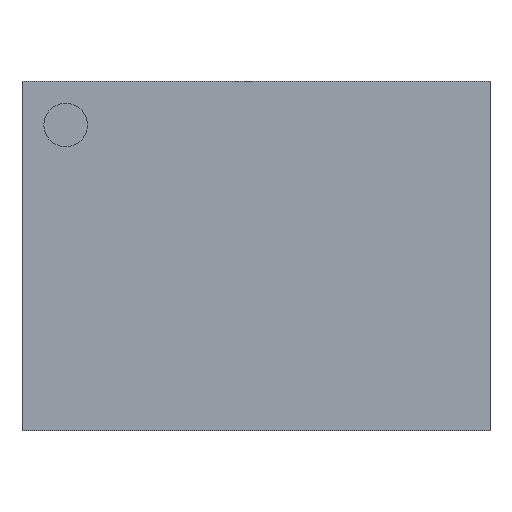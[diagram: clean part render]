
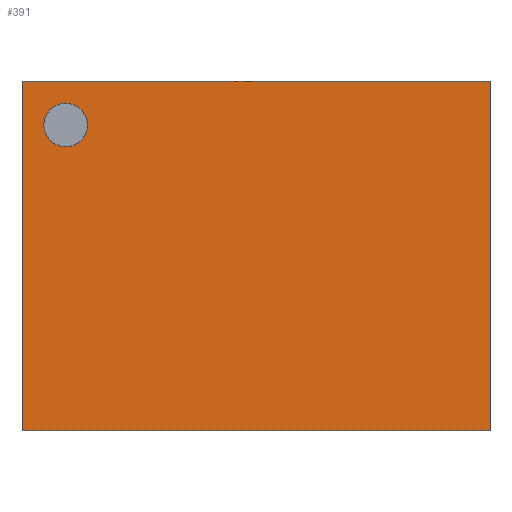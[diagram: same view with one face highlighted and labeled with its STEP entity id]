
A CAD part, top view. The second image highlights one B-rep face of the part: STEP entity #391.
In plain terms, the highlighted planar face has unit normal (0, 0, 1).
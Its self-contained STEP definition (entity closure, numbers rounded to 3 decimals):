
#202 = VERTEX_POINT('',#203);
#203 = CARTESIAN_POINT('',(-0.984,-0.734,0.69));
#210 = PLANE('',#211);
#211 = AXIS2_PLACEMENT_3D('',#212,#213,#214);
#212 = CARTESIAN_POINT('',(-0.984,-0.734,0.31));
#213 = DIRECTION('',(1.,0.,0.));
#214 = DIRECTION('',(0.,0.,1.));
#222 = PLANE('',#223);
#223 = AXIS2_PLACEMENT_3D('',#224,#225,#226);
#224 = CARTESIAN_POINT('',(-0.984,-0.734,0.31));
#225 = DIRECTION('',(0.,1.,0.));
#226 = DIRECTION('',(0.,0.,1.));
#263 = VERTEX_POINT('',#264);
#264 = CARTESIAN_POINT('',(-0.984,0.734,0.69));
#278 = PLANE('',#279);
#279 = AXIS2_PLACEMENT_3D('',#280,#281,#282);
#280 = CARTESIAN_POINT('',(-0.984,0.734,0.31));
#281 = DIRECTION('',(0.,1.,0.));
#282 = DIRECTION('',(0.,0.,1.));
#290 = EDGE_CURVE('',#202,#263,#291,.T.);
#291 = SURFACE_CURVE('',#292,(#296,#303),.PCURVE_S1.);
#292 = LINE('',#293,#294);
#293 = CARTESIAN_POINT('',(-0.984,-0.734,0.69));
#294 = VECTOR('',#295,1.);
#295 = DIRECTION('',(0.,1.,0.));
#296 = PCURVE('',#210,#297);
#297 = DEFINITIONAL_REPRESENTATION('',(#298),#302);
#298 = LINE('',#299,#300);
#299 = CARTESIAN_POINT('',(0.38,0.));
#300 = VECTOR('',#301,1.);
#301 = DIRECTION('',(0.,-1.));
#302 = ( GEOMETRIC_REPRESENTATION_CONTEXT(2) 
PARAMETRIC_REPRESENTATION_CONTEXT() REPRESENTATION_CONTEXT('2D SPACE',''
  ) );
#303 = PCURVE('',#304,#309);
#304 = PLANE('',#305);
#305 = AXIS2_PLACEMENT_3D('',#306,#307,#308);
#306 = CARTESIAN_POINT('',(-0.984,-0.734,0.69));
#307 = DIRECTION('',(0.,0.,1.));
#308 = DIRECTION('',(1.,0.,0.));
#309 = DEFINITIONAL_REPRESENTATION('',(#310),#314);
#310 = LINE('',#311,#312);
#311 = CARTESIAN_POINT('',(0.,0.));
#312 = VECTOR('',#313,1.);
#313 = DIRECTION('',(0.,1.));
#314 = ( GEOMETRIC_REPRESENTATION_CONTEXT(2) 
PARAMETRIC_REPRESENTATION_CONTEXT() REPRESENTATION_CONTEXT('2D SPACE',''
  ) );
#343 = EDGE_CURVE('',#202,#344,#346,.T.);
#344 = VERTEX_POINT('',#345);
#345 = CARTESIAN_POINT('',(0.984,-0.734,0.69));
#346 = SURFACE_CURVE('',#347,(#351,#358),.PCURVE_S1.);
#347 = LINE('',#348,#349);
#348 = CARTESIAN_POINT('',(-0.984,-0.734,0.69));
#349 = VECTOR('',#350,1.);
#350 = DIRECTION('',(1.,0.,0.));
#351 = PCURVE('',#222,#352);
#352 = DEFINITIONAL_REPRESENTATION('',(#353),#357);
#353 = LINE('',#354,#355);
#354 = CARTESIAN_POINT('',(0.38,0.));
#355 = VECTOR('',#356,1.);
#356 = DIRECTION('',(0.,1.));
#357 = ( GEOMETRIC_REPRESENTATION_CONTEXT(2) 
PARAMETRIC_REPRESENTATION_CONTEXT() REPRESENTATION_CONTEXT('2D SPACE',''
  ) );
#358 = PCURVE('',#304,#359);
#359 = DEFINITIONAL_REPRESENTATION('',(#360),#364);
#360 = LINE('',#361,#362);
#361 = CARTESIAN_POINT('',(0.,0.));
#362 = VECTOR('',#363,1.);
#363 = DIRECTION('',(1.,0.));
#364 = ( GEOMETRIC_REPRESENTATION_CONTEXT(2) 
PARAMETRIC_REPRESENTATION_CONTEXT() REPRESENTATION_CONTEXT('2D SPACE',''
  ) );
#380 = PLANE('',#381);
#381 = AXIS2_PLACEMENT_3D('',#382,#383,#384);
#382 = CARTESIAN_POINT('',(0.984,-0.734,0.31));
#383 = DIRECTION('',(1.,0.,0.));
#384 = DIRECTION('',(0.,0.,1.));
#391 = ADVANCED_FACE('',(#392,#440),#304,.T.);
#392 = FACE_BOUND('',#393,.T.);
#393 = EDGE_LOOP('',(#394,#395,#396,#419));
#394 = ORIENTED_EDGE('',*,*,#290,.F.);
#395 = ORIENTED_EDGE('',*,*,#343,.T.);
#396 = ORIENTED_EDGE('',*,*,#397,.T.);
#397 = EDGE_CURVE('',#344,#398,#400,.T.);
#398 = VERTEX_POINT('',#399);
#399 = CARTESIAN_POINT('',(0.984,0.734,0.69));
#400 = SURFACE_CURVE('',#401,(#405,#412),.PCURVE_S1.);
#401 = LINE('',#402,#403);
#402 = CARTESIAN_POINT('',(0.984,-0.734,0.69));
#403 = VECTOR('',#404,1.);
#404 = DIRECTION('',(0.,1.,0.));
#405 = PCURVE('',#304,#406);
#406 = DEFINITIONAL_REPRESENTATION('',(#407),#411);
#407 = LINE('',#408,#409);
#408 = CARTESIAN_POINT('',(1.968,0.));
#409 = VECTOR('',#410,1.);
#410 = DIRECTION('',(0.,1.));
#411 = ( GEOMETRIC_REPRESENTATION_CONTEXT(2) 
PARAMETRIC_REPRESENTATION_CONTEXT() REPRESENTATION_CONTEXT('2D SPACE',''
  ) );
#412 = PCURVE('',#380,#413);
#413 = DEFINITIONAL_REPRESENTATION('',(#414),#418);
#414 = LINE('',#415,#416);
#415 = CARTESIAN_POINT('',(0.38,0.));
#416 = VECTOR('',#417,1.);
#417 = DIRECTION('',(0.,-1.));
#418 = ( GEOMETRIC_REPRESENTATION_CONTEXT(2) 
PARAMETRIC_REPRESENTATION_CONTEXT() REPRESENTATION_CONTEXT('2D SPACE',''
  ) );
#419 = ORIENTED_EDGE('',*,*,#420,.F.);
#420 = EDGE_CURVE('',#263,#398,#421,.T.);
#421 = SURFACE_CURVE('',#422,(#426,#433),.PCURVE_S1.);
#422 = LINE('',#423,#424);
#423 = CARTESIAN_POINT('',(-0.984,0.734,0.69));
#424 = VECTOR('',#425,1.);
#425 = DIRECTION('',(1.,0.,0.));
#426 = PCURVE('',#304,#427);
#427 = DEFINITIONAL_REPRESENTATION('',(#428),#432);
#428 = LINE('',#429,#430);
#429 = CARTESIAN_POINT('',(0.,1.468));
#430 = VECTOR('',#431,1.);
#431 = DIRECTION('',(1.,0.));
#432 = ( GEOMETRIC_REPRESENTATION_CONTEXT(2) 
PARAMETRIC_REPRESENTATION_CONTEXT() REPRESENTATION_CONTEXT('2D SPACE',''
  ) );
#433 = PCURVE('',#278,#434);
#434 = DEFINITIONAL_REPRESENTATION('',(#435),#439);
#435 = LINE('',#436,#437);
#436 = CARTESIAN_POINT('',(0.38,0.));
#437 = VECTOR('',#438,1.);
#438 = DIRECTION('',(0.,1.));
#439 = ( GEOMETRIC_REPRESENTATION_CONTEXT(2) 
PARAMETRIC_REPRESENTATION_CONTEXT() REPRESENTATION_CONTEXT('2D SPACE',''
  ) );
#440 = FACE_BOUND('',#441,.T.);
#441 = EDGE_LOOP('',(#442));
#442 = ORIENTED_EDGE('',*,*,#443,.F.);
#443 = EDGE_CURVE('',#444,#444,#446,.T.);
#444 = VERTEX_POINT('',#445);
#445 = CARTESIAN_POINT('',(-0.709,0.551,0.69));
#446 = SURFACE_CURVE('',#447,(#452,#459),.PCURVE_S1.);
#447 = CIRCLE('',#448,0.092);
#448 = AXIS2_PLACEMENT_3D('',#449,#450,#451);
#449 = CARTESIAN_POINT('',(-0.801,0.551,0.69));
#450 = DIRECTION('',(0.,0.,1.));
#451 = DIRECTION('',(1.,0.,0.));
#452 = PCURVE('',#304,#453);
#453 = DEFINITIONAL_REPRESENTATION('',(#454),#458);
#454 = CIRCLE('',#455,0.092);
#455 = AXIS2_PLACEMENT_2D('',#456,#457);
#456 = CARTESIAN_POINT('',(0.184,1.285));
#457 = DIRECTION('',(1.,0.));
#458 = ( GEOMETRIC_REPRESENTATION_CONTEXT(2) 
PARAMETRIC_REPRESENTATION_CONTEXT() REPRESENTATION_CONTEXT('2D SPACE',''
  ) );
#459 = PCURVE('',#460,#465);
#460 = CYLINDRICAL_SURFACE('',#461,0.092);
#461 = AXIS2_PLACEMENT_3D('',#462,#463,#464);
#462 = CARTESIAN_POINT('',(-0.801,0.551,0.621));
#463 = DIRECTION('',(0.,0.,1.));
#464 = DIRECTION('',(1.,0.,0.));
#465 = DEFINITIONAL_REPRESENTATION('',(#466),#470);
#466 = LINE('',#467,#468);
#467 = CARTESIAN_POINT('',(0.,0.069));
#468 = VECTOR('',#469,1.);
#469 = DIRECTION('',(1.,0.));
#470 = ( GEOMETRIC_REPRESENTATION_CONTEXT(2) 
PARAMETRIC_REPRESENTATION_CONTEXT() REPRESENTATION_CONTEXT('2D SPACE',''
  ) );
